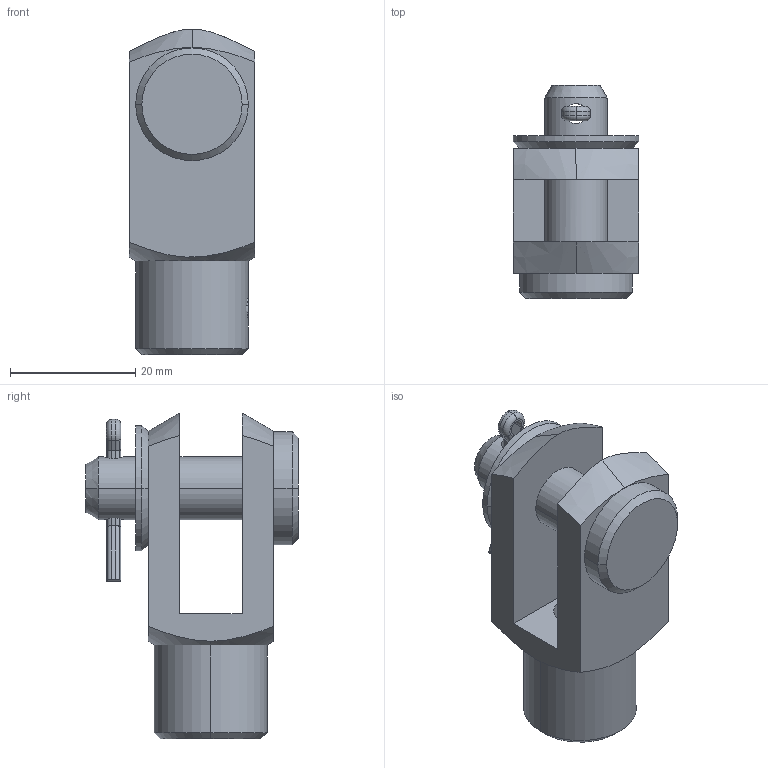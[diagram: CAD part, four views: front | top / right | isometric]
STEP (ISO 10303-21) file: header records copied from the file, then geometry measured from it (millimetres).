
FILE_DESCRIPTION (( 'STEP AP203' ), '1' );
FILE_NAME ('MJ0-GS.STEP', '2024-01-05T13:34:13', ( '' ), ( '' ), 'SwSTEP 2.0', 'SolidWorks 2022', '' );
FILE_SCHEMA (( 'CONFIG_CONTROL_DESIGN' ));
Length unit declared in the file: millimetre
Products named in the file (1): MJ0-GS
Bounding box: 20 x 34 x 52 mm (x, y, z)
Volume: 13487.4 mm3; surface area: 8048.1 mm2
Topology: 5 solids, 5 shells, 111 faces, 274 edges, 171 vertices
Faces by surface type: cylinder 52, plane 35, cone 20, torus 4
Entity records: 3588 total; most frequent: CARTESIAN_POINT 970, ORIENTED_EDGE 544, DIRECTION 516, EDGE_CURVE 272, AXIS2_PLACEMENT_3D 192, VERTEX_POINT 171, LINE 132, VECTOR 132
